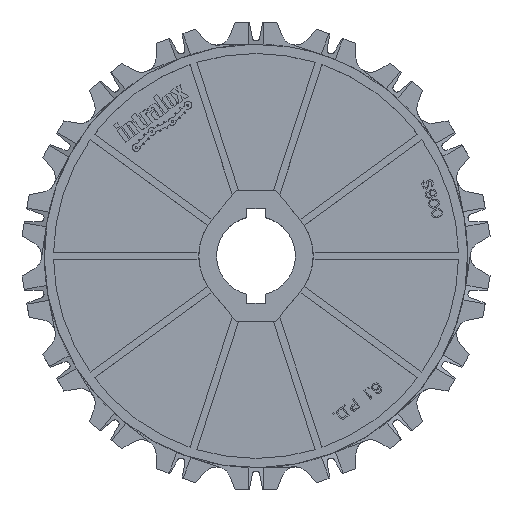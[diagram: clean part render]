
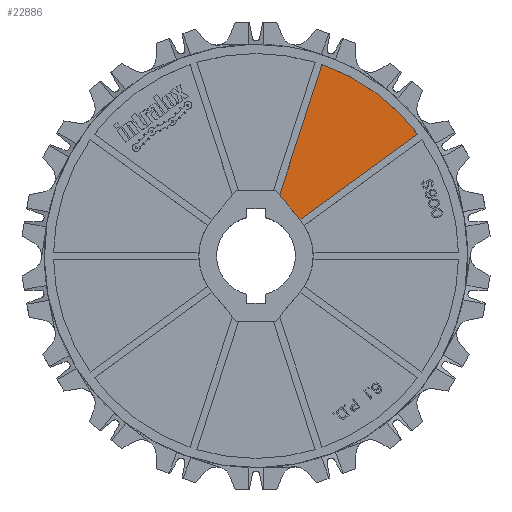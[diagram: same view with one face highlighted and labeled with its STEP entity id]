
A CAD part, top view. The second image highlights one B-rep face of the part: STEP entity #22886.
In plain terms, the highlighted planar face has unit normal (0, 0, 1).
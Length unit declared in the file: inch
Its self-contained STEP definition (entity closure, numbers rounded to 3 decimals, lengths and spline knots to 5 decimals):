
#4854=DIRECTION('',(-0.642,0.767,0.));
#4855=VECTOR('',#4854,0.42513);
#4856=CARTESIAN_POINT('',(0.59042,0.49428,0.09));
#4857=LINE('',#4856,#4855);
#4858=CARTESIAN_POINT('',(0.,0.,0.09));
#4859=DIRECTION('',(0.,0.,1.));
#4860=DIRECTION('',(0.77,0.638,0.));
#4861=AXIS2_PLACEMENT_3D('',#4858,#4859,#4860);
#7160=DIRECTION('',(0.809,0.588,0.));
#7161=VECTOR('',#7160,1.9611);
#7162=CARTESIAN_POINT('',(0.5932,0.49093,0.09));
#7163=LINE('',#7162,#7161);
#7173=CARTESIAN_POINT('',(0.,0.,0.09));
#7174=DIRECTION('',(0.,0.,1.));
#7175=DIRECTION('',(0.798,0.602,0.));
#7176=AXIS2_PLACEMENT_3D('',#7173,#7174,#7175);
#7202=DIRECTION('',(-0.309,-0.951,0.));
#7203=VECTOR('',#7202,1.85134);
#7204=CARTESIAN_POINT('',(0.88961,2.58099,0.09));
#7205=LINE('',#7204,#7203);
#15680=CARTESIAN_POINT('',(0.59042,0.49428,0.09));
#15681=VERTEX_POINT('',#15680);
#15834=CARTESIAN_POINT('',(2.17976,1.64364,0.09));
#15835=CARTESIAN_POINT('',(0.88961,2.58099,0.09));
#15836=VERTEX_POINT('',#15834);
#15837=VERTEX_POINT('',#15835);
#15900=CARTESIAN_POINT('',(0.31751,0.82026,0.09));
#15901=VERTEX_POINT('',#15900);
#15916=CARTESIAN_POINT('',(0.5932,0.49093,0.09));
#15917=VERTEX_POINT('',#15916);
#22869=CARTESIAN_POINT('',(0.,0.,0.09));
#22870=DIRECTION('',(0.,0.,1.));
#22871=DIRECTION('',(1.,0.,0.));
#22872=AXIS2_PLACEMENT_3D('',#22869,#22870,#22871);
#22873=PLANE('',#22872);
#22875=ORIENTED_EDGE('',*,*,#22874,.T.);
#22877=ORIENTED_EDGE('',*,*,#22876,.F.);
#22879=ORIENTED_EDGE('',*,*,#22878,.F.);
#22881=ORIENTED_EDGE('',*,*,#22880,.F.);
#22883=ORIENTED_EDGE('',*,*,#22882,.T.);
#22884=EDGE_LOOP('',(#22875,#22877,#22879,#22881,#22883));
#22885=FACE_OUTER_BOUND('',#22884,.F.);
#22886=ADVANCED_FACE('',(#22885),#22873,.T.);
#4862=CIRCLE('',#4861,0.77);
#7177=CIRCLE('',#7176,2.73);
#22874=EDGE_CURVE('',#15681,#15901,#4857,.T.);
#22876=EDGE_CURVE('',#15837,#15901,#7205,.T.);
#22878=EDGE_CURVE('',#15836,#15837,#7177,.T.);
#22880=EDGE_CURVE('',#15917,#15836,#7163,.T.);
#22882=EDGE_CURVE('',#15917,#15681,#4862,.T.);
